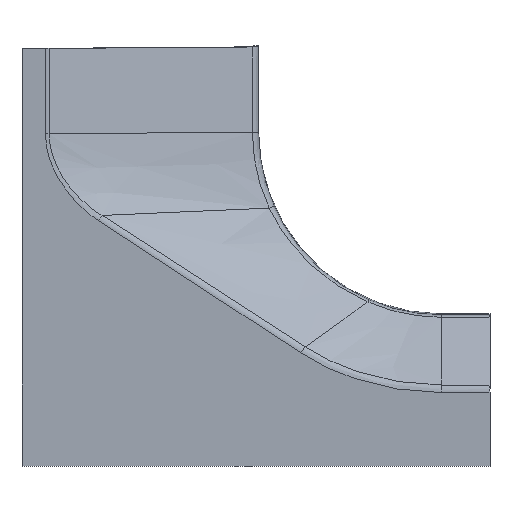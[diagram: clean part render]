
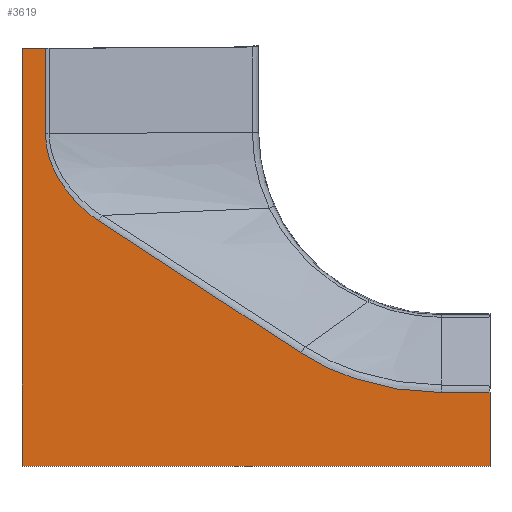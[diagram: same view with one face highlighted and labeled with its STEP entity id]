
A CAD part, left-side view. The second image highlights one B-rep face of the part: STEP entity #3619.
In plain terms, the highlighted planar face has unit normal (-1, 0, -0.018).
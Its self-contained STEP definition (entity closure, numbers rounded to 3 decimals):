
#1739=CARTESIAN_POINT('Vertex',(1157.572,5355.068,2097.659)) ;
#1743=CARTESIAN_POINT('Control Point',(1157.572,5355.068,2097.659)) ;
#1744=CARTESIAN_POINT('Control Point',(1157.584,5353.999,2096.953)) ;
#1745=CARTESIAN_POINT('Control Point',(1157.597,5352.931,2096.248)) ;
#1746=CARTESIAN_POINT('Control Point',(1157.609,5351.866,2095.544)) ;
#1747=CARTESIAN_POINT('Control Point',(1157.688,5344.987,2091.)) ;
#1748=CARTESIAN_POINT('Control Point',(1157.767,5338.113,2086.462)) ;
#1749=CARTESIAN_POINT('Control Point',(1157.834,5332.302,2082.63)) ;
#1750=CARTESIAN_POINT('Control Point',(1157.99,5318.76,2073.715)) ;
#1751=CARTESIAN_POINT('Control Point',(1158.145,5305.228,2064.853)) ;
#1752=CARTESIAN_POINT('Control Point',(1158.232,5297.527,2059.83)) ;
#1753=CARTESIAN_POINT('Control Point',(1158.343,5287.77,2053.494)) ;
#1754=CARTESIAN_POINT('Control Point',(1158.453,5278.002,2047.185)) ;
#1755=CARTESIAN_POINT('Control Point',(1158.475,5276.018,2045.905)) ;
#1756=CARTESIAN_POINT('Control Point',(1158.498,5273.989,2044.597)) ;
#1757=CARTESIAN_POINT('Control Point',(1158.521,5271.959,2043.29)) ;
#1758=CARTESIAN_POINT('Vertex',(1158.521,5271.959,2043.29)) ;
#2033=CARTESIAN_POINT('Vertex',(1156.949,5376.882,2133.328)) ;
#2037=CARTESIAN_POINT('Control Point',(1156.949,5376.882,2133.328)) ;
#2038=CARTESIAN_POINT('Control Point',(1156.95,5376.882,2133.271)) ;
#2039=CARTESIAN_POINT('Control Point',(1156.951,5376.882,2133.215)) ;
#2040=CARTESIAN_POINT('Control Point',(1156.952,5376.882,2133.159)) ;
#2041=CARTESIAN_POINT('Control Point',(1156.994,5376.865,2130.799)) ;
#2042=CARTESIAN_POINT('Control Point',(1157.035,5376.624,2128.441)) ;
#2043=CARTESIAN_POINT('Control Point',(1157.074,5376.171,2126.169)) ;
#2044=CARTESIAN_POINT('Control Point',(1157.123,5375.368,2123.366)) ;
#2045=CARTESIAN_POINT('Control Point',(1157.171,5374.301,2120.645)) ;
#2046=CARTESIAN_POINT('Control Point',(1157.181,5374.068,2120.084)) ;
#2047=CARTESIAN_POINT('Control Point',(1157.2,5373.572,2118.945)) ;
#2048=CARTESIAN_POINT('Control Point',(1157.22,5373.032,2117.821)) ;
#2049=CARTESIAN_POINT('Control Point',(1157.23,5372.745,2117.251)) ;
#2050=CARTESIAN_POINT('Control Point',(1157.26,5371.83,2115.51)) ;
#2051=CARTESIAN_POINT('Control Point',(1157.29,5370.82,2113.813)) ;
#2052=CARTESIAN_POINT('Control Point',(1157.31,5370.1,2112.692)) ;
#2053=CARTESIAN_POINT('Control Point',(1157.343,5368.782,2110.78)) ;
#2054=CARTESIAN_POINT('Control Point',(1157.375,5367.36,2108.941)) ;
#2055=CARTESIAN_POINT('Control Point',(1157.389,5366.733,2108.169)) ;
#2056=CARTESIAN_POINT('Control Point',(1157.408,5365.773,2107.039)) ;
#2057=CARTESIAN_POINT('Control Point',(1157.428,5364.767,2105.933)) ;
#2058=CARTESIAN_POINT('Control Point',(1157.434,5364.427,2105.568)) ;
#2059=CARTESIAN_POINT('Control Point',(1157.446,5363.747,2104.854)) ;
#2060=CARTESIAN_POINT('Control Point',(1157.459,5363.05,2104.154)) ;
#2061=CARTESIAN_POINT('Control Point',(1157.465,5362.696,2103.807)) ;
#2062=CARTESIAN_POINT('Control Point',(1157.482,5361.687,2102.84)) ;
#2063=CARTESIAN_POINT('Control Point',(1157.498,5360.645,2101.903)) ;
#2064=CARTESIAN_POINT('Control Point',(1157.508,5359.958,2101.312)) ;
#2065=CARTESIAN_POINT('Control Point',(1157.526,5358.687,2100.264)) ;
#2066=CARTESIAN_POINT('Control Point',(1157.544,5357.367,2099.261)) ;
#2067=CARTESIAN_POINT('Control Point',(1157.552,5356.762,2098.819)) ;
#2068=CARTESIAN_POINT('Control Point',(1157.56,5356.103,2098.354)) ;
#2069=CARTESIAN_POINT('Control Point',(1157.568,5355.429,2097.9)) ;
#2070=CARTESIAN_POINT('Control Point',(1157.568,5355.384,2097.87)) ;
#2071=CARTESIAN_POINT('Control Point',(1157.569,5355.303,2097.815)) ;
#2072=CARTESIAN_POINT('Control Point',(1157.57,5355.221,2097.76)) ;
#2073=CARTESIAN_POINT('Control Point',(1157.571,5355.142,2097.708)) ;
#2074=CARTESIAN_POINT('Control Point',(1157.572,5355.105,2097.684)) ;
#2075=CARTESIAN_POINT('Control Point',(1157.572,5355.068,2097.659)) ;
#2093=CARTESIAN_POINT('Vertex',(1156.339,5376.882,2168.322)) ;
#2096=CARTESIAN_POINT('Line Origine',(1161.25,5376.883,1886.917)) ;
#3535=CARTESIAN_POINT('Control Point',(1158.804,5214.476,2027.1)) ;
#3536=CARTESIAN_POINT('Control Point',(1158.804,5218.875,2027.1)) ;
#3537=CARTESIAN_POINT('Control Point',(1158.8,5223.273,2027.32)) ;
#3538=CARTESIAN_POINT('Control Point',(1158.792,5227.645,2027.755)) ;
#3539=CARTESIAN_POINT('Control Point',(1158.779,5232.955,2028.535)) ;
#3540=CARTESIAN_POINT('Control Point',(1158.759,5238.226,2029.632)) ;
#3541=CARTESIAN_POINT('Control Point',(1158.756,5239.196,2029.845)) ;
#3542=CARTESIAN_POINT('Control Point',(1158.737,5243.923,2030.937)) ;
#3543=CARTESIAN_POINT('Control Point',(1158.713,5248.593,2032.284)) ;
#3544=CARTESIAN_POINT('Control Point',(1158.692,5252.251,2033.518)) ;
#3545=CARTESIAN_POINT('Control Point',(1158.649,5258.494,2035.95)) ;
#3546=CARTESIAN_POINT('Control Point',(1158.598,5264.48,2038.884)) ;
#3547=CARTESIAN_POINT('Control Point',(1158.574,5266.981,2040.228)) ;
#3548=CARTESIAN_POINT('Control Point',(1158.549,5269.457,2041.684)) ;
#3549=CARTESIAN_POINT('Control Point',(1158.522,5271.881,2043.24)) ;
#3550=CARTESIAN_POINT('Control Point',(1158.522,5271.907,2043.257)) ;
#3551=CARTESIAN_POINT('Control Point',(1158.521,5271.933,2043.273)) ;
#3552=CARTESIAN_POINT('Control Point',(1158.521,5271.959,2043.29)) ;
#3553=CARTESIAN_POINT('Vertex',(1158.804,5214.476,2027.1)) ;
#3570=CARTESIAN_POINT('Axis2P3D Location',(1193.822,1.024,20.914)) ;
#3575=CARTESIAN_POINT('Line Origine',(1157.834,5386.5,2082.623)) ;
#3579=CARTESIAN_POINT('Vertex',(1156.339,5386.5,2168.322)) ;
#3581=CARTESIAN_POINT('Vertex',(1159.33,5386.5,1996.924)) ;
#3584=CARTESIAN_POINT('Line Origine',(1159.33,5290.488,1996.924)) ;
#3588=CARTESIAN_POINT('Vertex',(1159.33,5194.476,1996.924)) ;
#3591=CARTESIAN_POINT('Line Origine',(1159.067,5194.476,2012.012)) ;
#3595=CARTESIAN_POINT('Vertex',(1158.804,5194.476,2027.1)) ;
#3598=CARTESIAN_POINT('Line Origine',(1158.804,5204.476,2027.1)) ;
#3603=CARTESIAN_POINT('Line Origine',(1156.339,5381.691,2168.322)) ;
#2097=DIRECTION('Vector Direction',(0.017,0.,-1.)) ;
#3571=DIRECTION('Axis2P3D Direction',(-1.,0.,-0.017)) ;
#3572=DIRECTION('Axis2P3D XDirection',(0.,-1.,0.)) ;
#3576=DIRECTION('Vector Direction',(0.017,0.,-1.)) ;
#3585=DIRECTION('Vector Direction',(0.,1.,0.)) ;
#3592=DIRECTION('Vector Direction',(0.017,0.,-1.)) ;
#3599=DIRECTION('Vector Direction',(0.,-1.,0.)) ;
#3604=DIRECTION('Vector Direction',(0.,1.,0.)) ;
#3573=AXIS2_PLACEMENT_3D('Plane Axis2P3D',#3570,#3571,#3572) ;
#3609=ORIENTED_EDGE('',*,*,#3583,.T.) ;
#3610=ORIENTED_EDGE('',*,*,#3590,.F.) ;
#3611=ORIENTED_EDGE('',*,*,#3597,.F.) ;
#3612=ORIENTED_EDGE('',*,*,#3602,.T.) ;
#3613=ORIENTED_EDGE('',*,*,#3555,.T.) ;
#3614=ORIENTED_EDGE('',*,*,#1760,.T.) ;
#3615=ORIENTED_EDGE('',*,*,#2076,.T.) ;
#3616=ORIENTED_EDGE('',*,*,#2100,.T.) ;
#3617=ORIENTED_EDGE('',*,*,#3607,.T.) ;
#2098=VECTOR('Line Direction',#2097,1.) ;
#3577=VECTOR('Line Direction',#3576,1.) ;
#3586=VECTOR('Line Direction',#3585,1.) ;
#3593=VECTOR('Line Direction',#3592,1.) ;
#3600=VECTOR('Line Direction',#3599,1.) ;
#3605=VECTOR('Line Direction',#3604,1.) ;
#3619=ADVANCED_FACE('\X2\04220435043B043E\X0\ \X2\0434043504420430043B0438\X0\',(#3618),#3574,.T.) ;
#1742=B_SPLINE_CURVE_WITH_KNOTS('',5,(#1743,#1744,#1745,#1746,#1747,#1748,#1749,#1750,#1751,#1752,#1753,#1754,#1755,#1756,#1757),.UNSPECIFIED.,.F.,.U.,(6,3,3,3,6),(484.144,492.317,537.163,596.875,612.52),.UNSPECIFIED.) ;
#2036=B_SPLINE_CURVE_WITH_KNOTS('',5,(#2037,#2038,#2039,#2040,#2041,#2042,#2043,#2044,#2045,#2046,#2047,#2048,#2049,#2050,#2051,#2052,#2053,#2054,#2055,#2056,#2057,#2058,#2059,#2060,#2061,#2062,#2063,#2064,#2065,#2066,#2067,#2068,#2069,#2070,#2071,#2072,#2073,#2074,#2075),.UNSPECIFIED.,.F.,.U.,(6,3,3,3,3,3,3,3,3,3,3,3,6),(28.726,29.102,44.511,48.54,52.743,61.464,67.954,71.117,74.29,80.066,84.776,85.113,85.387),.UNSPECIFIED.) ;
#3534=B_SPLINE_CURVE_WITH_KNOTS('',5,(#3535,#3536,#3537,#3538,#3539,#3540,#3541,#3542,#3543,#3544,#3545,#3546,#3547,#3548,#3549,#3550,#3551,#3552),.UNSPECIFIED.,.F.,.U.,(6,3,3,3,3,6),(63.48,91.073,97.283,121.498,139.488,139.681),.UNSPECIFIED.) ;
#1760=EDGE_CURVE('',#1759,#1740,#1742,.F.) ;
#2076=EDGE_CURVE('',#1740,#2034,#2036,.F.) ;
#2100=EDGE_CURVE('',#2034,#2094,#2099,.F.) ;
#3555=EDGE_CURVE('',#3554,#1759,#3534,.T.) ;
#3583=EDGE_CURVE('',#3580,#3582,#3578,.T.) ;
#3590=EDGE_CURVE('',#3589,#3582,#3587,.T.) ;
#3597=EDGE_CURVE('',#3596,#3589,#3594,.T.) ;
#3602=EDGE_CURVE('',#3596,#3554,#3601,.F.) ;
#3607=EDGE_CURVE('',#2094,#3580,#3606,.T.) ;
#3608=EDGE_LOOP('',(#3609,#3610,#3611,#3612,#3613,#3614,#3615,#3616,#3617)) ;
#3618=FACE_OUTER_BOUND('',#3608,.T.) ;
#2099=LINE('Line',#2096,#2098) ;
#3578=LINE('Line',#3575,#3577) ;
#3587=LINE('Line',#3584,#3586) ;
#3594=LINE('Line',#3591,#3593) ;
#3601=LINE('Line',#3598,#3600) ;
#3606=LINE('Line',#3603,#3605) ;
#3574=PLANE('',#3573) ;
#1740=VERTEX_POINT('',#1739) ;
#1759=VERTEX_POINT('',#1758) ;
#2034=VERTEX_POINT('',#2033) ;
#2094=VERTEX_POINT('',#2093) ;
#3554=VERTEX_POINT('',#3553) ;
#3580=VERTEX_POINT('',#3579) ;
#3582=VERTEX_POINT('',#3581) ;
#3589=VERTEX_POINT('',#3588) ;
#3596=VERTEX_POINT('',#3595) ;
